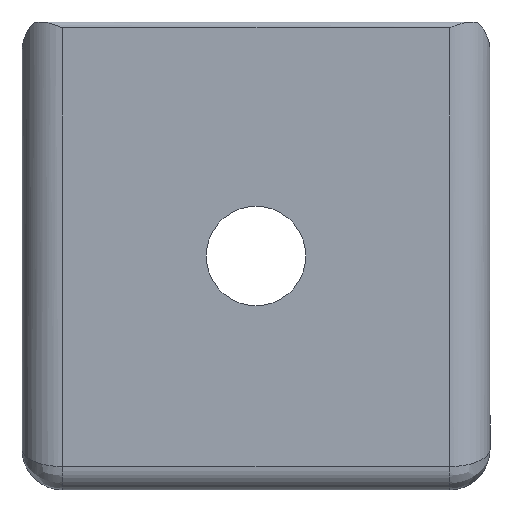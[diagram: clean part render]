
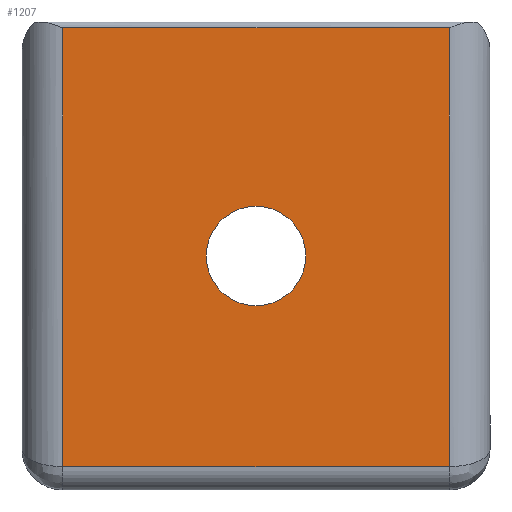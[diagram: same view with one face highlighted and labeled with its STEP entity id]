
A CAD part, left-side view. The second image highlights one B-rep face of the part: STEP entity #1207.
In plain terms, the highlighted planar face has unit normal (-1, 0, 0).
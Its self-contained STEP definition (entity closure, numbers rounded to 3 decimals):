
#11 = CARTESIAN_POINT ( 'NONE',  ( 0., 36.5, 2. ) ) ;
#60 = VECTOR ( 'NONE', #973, 1000. ) ;
#70 = CARTESIAN_POINT ( 'NONE',  ( 0., 3.5, 2. ) ) ;
#81 = VERTEX_POINT ( 'NONE', #365 ) ;
#105 = CARTESIAN_POINT ( 'NONE',  ( 0., 36.5, 39.5 ) ) ;
#145 = AXIS2_PLACEMENT_3D ( 'NONE', #877, #1194, #987 ) ;
#151 = VERTEX_POINT ( 'NONE', #70 ) ;
#188 = DIRECTION ( 'NONE',  ( 0., 0., 1. ) ) ;
#256 = CARTESIAN_POINT ( 'NONE',  ( 0., 0., 39.5 ) ) ;
#257 = VERTEX_POINT ( 'NONE', #510 ) ;
#262 = FACE_OUTER_BOUND ( 'NONE', #1237, .T. ) ;
#270 = CARTESIAN_POINT ( 'NONE',  ( 0., 3.5, 39.5 ) ) ;
#297 = AXIS2_PLACEMENT_3D ( 'NONE', #418, #936, #650 ) ;
#317 = LINE ( 'NONE', #1028, #1084 ) ;
#331 = EDGE_CURVE ( 'NONE', #151, #893, #643, .T. ) ;
#352 = FACE_BOUND ( 'NONE', #797, .T. ) ;
#365 = CARTESIAN_POINT ( 'NONE',  ( 0., 20., 15.75 ) ) ;
#367 = VERTEX_POINT ( 'NONE', #105 ) ;
#377 = VECTOR ( 'NONE', #817, 1000. ) ;
#418 = CARTESIAN_POINT ( 'NONE',  ( 0., 20., 20. ) ) ;
#426 = CARTESIAN_POINT ( 'NONE',  ( 0., 3.5, 0. ) ) ;
#510 = CARTESIAN_POINT ( 'NONE',  ( 0., 20., 24.25 ) ) ;
#578 = ORIENTED_EDGE ( 'NONE', *, *, #622, .F. ) ;
#622 = EDGE_CURVE ( 'NONE', #257, #81, #990, .T. ) ;
#643 = LINE ( 'NONE', #426, #377 ) ;
#650 = DIRECTION ( 'NONE',  ( 0., 0., 1. ) ) ;
#653 = EDGE_CURVE ( 'NONE', #367, #767, #800, .T. ) ;
#690 = EDGE_CURVE ( 'NONE', #767, #151, #317, .T. ) ;
#696 = DIRECTION ( 'NONE',  ( 0., 0., -1. ) ) ;
#757 = PLANE ( 'NONE',  #145 ) ;
#767 = VERTEX_POINT ( 'NONE', #11 ) ;
#794 = DIRECTION ( 'NONE',  ( 0., -1., 0. ) ) ;
#797 = EDGE_LOOP ( 'NONE', ( #578, #924 ) ) ;
#800 = LINE ( 'NONE', #810, #895 ) ;
#810 = CARTESIAN_POINT ( 'NONE',  ( 0., 36.5, 0. ) ) ;
#817 = DIRECTION ( 'NONE',  ( 0., 0., 1. ) ) ;
#851 = AXIS2_PLACEMENT_3D ( 'NONE', #1131, #1240, #188 ) ;
#873 = CIRCLE ( 'NONE', #297, 4.25 ) ;
#877 = CARTESIAN_POINT ( 'NONE',  ( 0., 0., 0. ) ) ;
#890 = ORIENTED_EDGE ( 'NONE', *, *, #1250, .T. ) ;
#893 = VERTEX_POINT ( 'NONE', #270 ) ;
#895 = VECTOR ( 'NONE', #696, 1000. ) ;
#924 = ORIENTED_EDGE ( 'NONE', *, *, #1097, .F. ) ;
#936 = DIRECTION ( 'NONE',  ( -1., 0., 0. ) ) ;
#967 = LINE ( 'NONE', #256, #60 ) ;
#973 = DIRECTION ( 'NONE',  ( 0., 1., 0. ) ) ;
#987 = DIRECTION ( 'NONE',  ( 0., 0., -1. ) ) ;
#990 = CIRCLE ( 'NONE', #851, 4.25 ) ;
#1027 = ORIENTED_EDGE ( 'NONE', *, *, #690, .T. ) ;
#1028 = CARTESIAN_POINT ( 'NONE',  ( 0., 0., 2. ) ) ;
#1045 = ORIENTED_EDGE ( 'NONE', *, *, #653, .T. ) ;
#1084 = VECTOR ( 'NONE', #794, 1000. ) ;
#1097 = EDGE_CURVE ( 'NONE', #81, #257, #873, .T. ) ;
#1131 = CARTESIAN_POINT ( 'NONE',  ( 0., 20., 20. ) ) ;
#1194 = DIRECTION ( 'NONE',  ( 1., 0., 0. ) ) ;
#1207 = ADVANCED_FACE ( 'NONE', ( #352, #262 ), #757, .F. ) ;
#1231 = ORIENTED_EDGE ( 'NONE', *, *, #331, .T. ) ;
#1237 = EDGE_LOOP ( 'NONE', ( #1231, #890, #1045, #1027 ) ) ;
#1240 = DIRECTION ( 'NONE',  ( -1., 0., 0. ) ) ;
#1250 = EDGE_CURVE ( 'NONE', #893, #367, #967, .T. ) ;
